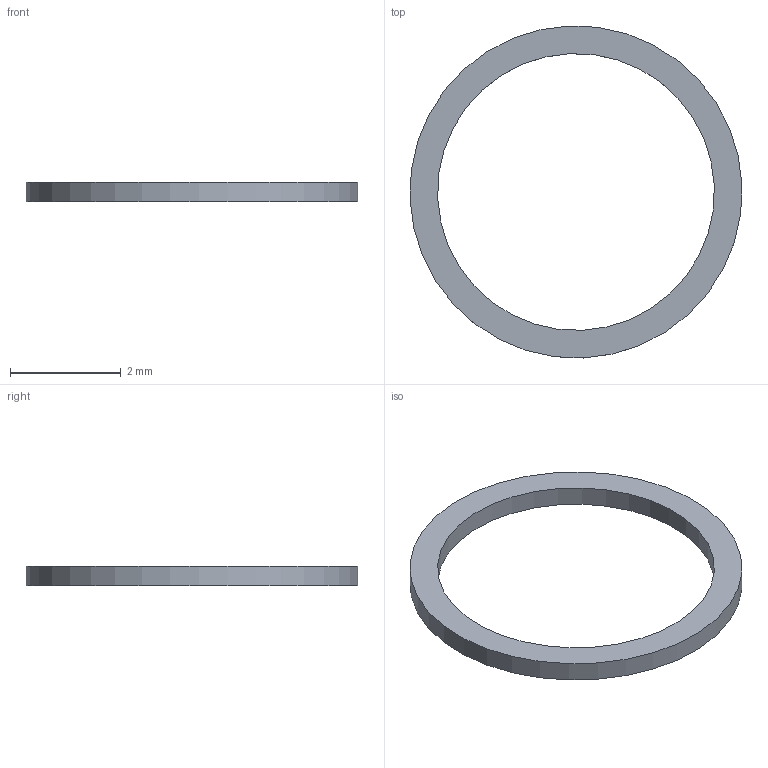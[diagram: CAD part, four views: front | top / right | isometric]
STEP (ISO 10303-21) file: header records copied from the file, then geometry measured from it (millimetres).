
FILE_DESCRIPTION(/* description */ ('STEP AP242 Edition 2','CAx-IF Rec.Pracs.---Representation and Presentation of Product Manufacturing Information (PMI)---4.0---2014-10-13','CAx-IF Rec.Pracs.---3D Tessellated Geometry---0.4---2014-09-14','2;1','CAx-IF Rec.Pracs.---User Defined Attributes---1.5---2016-08-15'),/* implementation_level */ '2;1');
FILE_NAME(/* name */ 'Final Build - M5 Locknut lock (2)',/* time_stamp */ '2026-08-31T23:26:14Z',/* author */ (''),/* organization */ (''),/* preprocessor_version */ 'ST-DEVELOPER v20',/* originating_system */ 'ONSHAPE BY PTC INC, 1.220',/* authorisation */ ' ');
FILE_SCHEMA (('AP242_MANAGED_MODEL_BASED_3D_ENGINEERING_MIM_LF { 1 0 10303 442 3 1 4 }'));
Length unit declared in the file: metre
Products named in the file (1): M5 Locknut lock
Bounding box: 5.99 x 5.99 x 0.36 mm (x, y, z)
Volume: 3.1 mm3; surface area: 29.7 mm2
Topology: 1 solids, 1 shells, 4 faces, 6 edges, 4 vertices
Faces by surface type: cylinder 2, plane 2
Full cylindrical faces by diameter (mm): 5 x1, 6 x1
Entity records: 110 total; most frequent: DIRECTION 18, CARTESIAN_POINT 13, AXIS2_PLACEMENT_3D 9, ORIENTED_EDGE 8, EDGE_LOOP 8, FACE_BOUND 8, EDGE_CURVE 4, VERTEX_POINT 4
